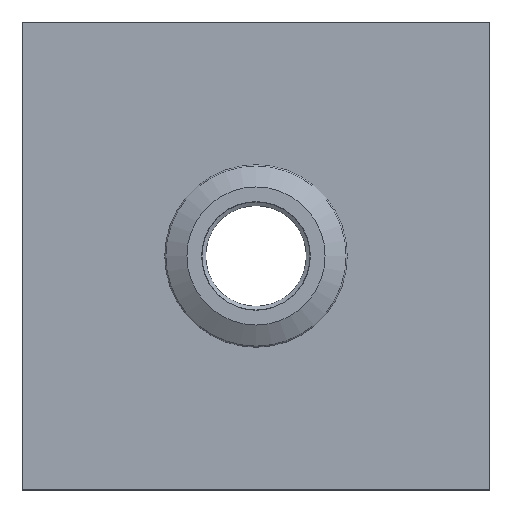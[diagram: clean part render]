
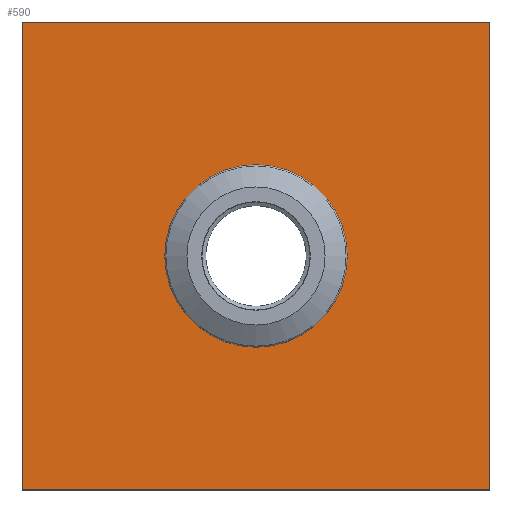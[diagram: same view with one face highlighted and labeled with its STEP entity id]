
A CAD part, top view. The second image highlights one B-rep face of the part: STEP entity #590.
In plain terms, the highlighted planar face has unit normal (0, 0, 1).
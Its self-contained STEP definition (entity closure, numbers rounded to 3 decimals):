
#17=LINE('',#967,#29);
#20=LINE('',#973,#32);
#23=LINE('',#979,#35);
#26=LINE('',#983,#38);
#29=VECTOR('',#791,500.);
#32=VECTOR('',#796,500.);
#35=VECTOR('',#801,500.);
#38=VECTOR('',#806,500.);
#119=FACE_BOUND('',#192,.T.);
#120=FACE_BOUND('',#193,.T.);
#192=EDGE_LOOP('',(#440));
#193=EDGE_LOOP('',(#441,#442,#443,#444));
#259=CIRCLE('',#657,70.);
#301=VERTEX_POINT('',#956);
#305=VERTEX_POINT('',#964);
#306=VERTEX_POINT('',#966);
#308=VERTEX_POINT('',#972);
#310=VERTEX_POINT('',#978);
#351=EDGE_CURVE('',#301,#301,#259,.T.);
#355=EDGE_CURVE('',#306,#305,#17,.T.);
#358=EDGE_CURVE('',#308,#306,#20,.T.);
#361=EDGE_CURVE('',#310,#308,#23,.T.);
#364=EDGE_CURVE('',#305,#310,#26,.T.);
#440=ORIENTED_EDGE('',*,*,#351,.T.);
#441=ORIENTED_EDGE('',*,*,#364,.T.);
#442=ORIENTED_EDGE('',*,*,#361,.T.);
#443=ORIENTED_EDGE('',*,*,#358,.T.);
#444=ORIENTED_EDGE('',*,*,#355,.T.);
#506=PLANE('',#663);
#590=ADVANCED_FACE('',(#119,#120),#506,.T.);
#657=AXIS2_PLACEMENT_3D('',#957,#783,#784);
#663=AXIS2_PLACEMENT_3D('',#984,#807,#808);
#783=DIRECTION('center_axis',(0.,0.,-1.));
#784=DIRECTION('ref_axis',(-1.,0.,0.));
#791=DIRECTION('',(0.,-1.,0.));
#796=DIRECTION('',(-1.,0.,0.));
#801=DIRECTION('',(0.,1.,0.));
#806=DIRECTION('',(1.,0.,0.));
#807=DIRECTION('center_axis',(0.,0.,1.));
#808=DIRECTION('ref_axis',(1.,0.,0.));
#956=CARTESIAN_POINT('',(70.,0.,1.3));
#957=CARTESIAN_POINT('Origin',(0.,0.,1.3));
#964=CARTESIAN_POINT('',(-250.,-250.,1.3));
#966=CARTESIAN_POINT('',(-250.,250.,1.3));
#967=CARTESIAN_POINT('',(-250.,250.,1.3));
#972=CARTESIAN_POINT('',(250.,250.,1.3));
#973=CARTESIAN_POINT('',(250.,250.,1.3));
#978=CARTESIAN_POINT('',(250.,-250.,1.3));
#979=CARTESIAN_POINT('',(250.,-250.,1.3));
#983=CARTESIAN_POINT('',(-250.,-250.,1.3));
#984=CARTESIAN_POINT('Origin',(0.,0.,1.3));
